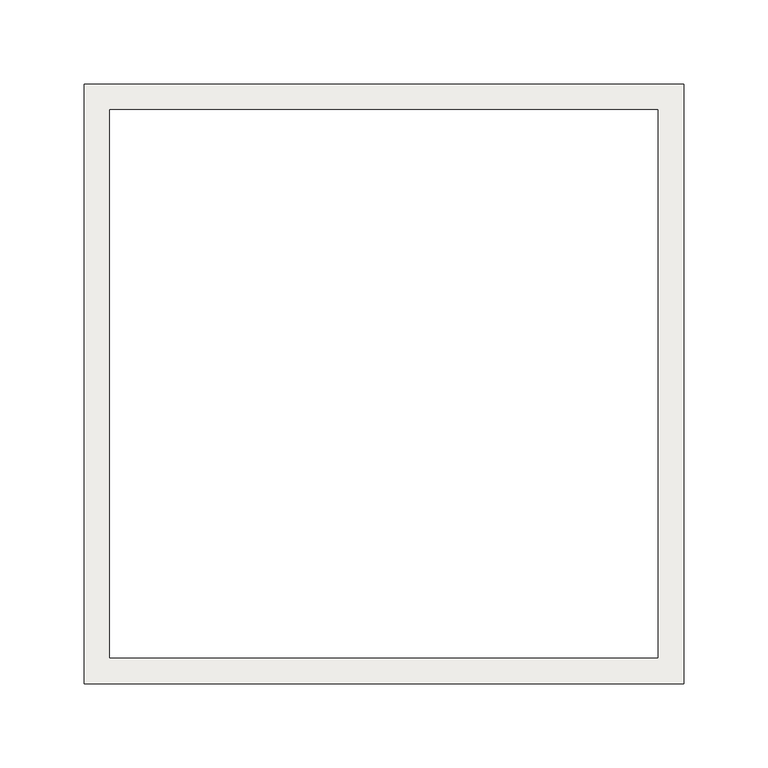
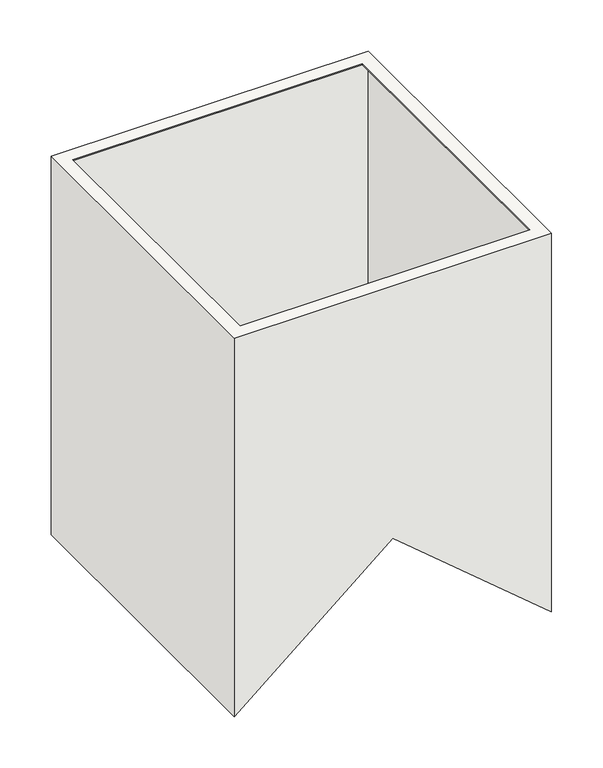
"""IFC4 building model written with IfcOpenShell, lengths in millimetres: covering geometry, DERS_420_AM_AEB_Mini Delta_mountingbox_M&G : mountingbox Mini-Delta."""

import ifcopenshell
import ifcopenshell.guid

model = None  # the IFC model being written
_history = None  # IfcOwnerHistory: only IFC2X3 demands one
_inside = {}  # id of a spatial element -> (the spatial element, [elements in it])
_under = {}  # id of a project, library or spatial element -> (it, [spatial elements below it])
_declared = {}  # id of a project -> (the project, [libraries it declares])
_typed = {}  # id of a type object -> (the type object, [elements of that type])
_made_of = {}  # id of a material, layer set ... -> (it, [elements and type objects made of it])


def new_model(schema):
    """Start an empty IFC model of exactly this schema.

    Asked for "IFC4X3", IfcOpenShell would pick the latest addendum, in which some entities
    have other attributes; the version numbers below select the first issue.
    IFC2X3 requires an IfcOwnerHistory on every rooted entity: one is made here for all.
    """
    global model, _history
    if schema == "IFC4X3":
        model = ifcopenshell.file(schema_version=(4, 3, 0, 0))
    else:
        model = ifcopenshell.file(schema=schema)
    _inside.clear()
    _under.clear()
    _declared.clear()
    _typed.clear()
    _made_of.clear()
    _history = None
    if model.schema == "IFC2X3":
        org = make("IfcOrganization", Name="unknown")
        user = make(
            "IfcPersonAndOrganization",
            ThePerson=make("IfcPerson", FamilyName="unknown"),
            TheOrganization=org,
        )
        app = make(
            "IfcApplication",
            ApplicationDeveloper=org,
            Version="unknown",
            ApplicationFullName="unknown",
            ApplicationIdentifier="unknown",
        )
        _history = make(
            "IfcOwnerHistory",
            OwningUser=user,
            OwningApplication=app,
            ChangeAction="ADDED",
            CreationDate=0,
        )
    return model


def make(cls, **values):
    """One entity of the class cls with the attributes given. An attribute that is None is left unset."""
    return model.create_entity(
        cls, **{name: value for name, value in values.items() if value is not None}
    )


def rooted(cls, **values):
    """An entity with a GlobalId (a new one), such as an element, a storey or a relation."""
    return make(cls, GlobalId=ifcopenshell.guid.new(), OwnerHistory=_history, **values)


def si_unit(unit_type, name, prefix=None):
    """IfcSIUnit, for example si_unit("LENGTHUNIT", "METRE", prefix="MILLI")."""
    return make("IfcSIUnit", UnitType=unit_type, Prefix=prefix, Name=name)


def assignment(units):
    """IfcUnitAssignment: the units of a project."""
    return None if units is None else make("IfcUnitAssignment", Units=units)


def point(xyz):
    """IfcCartesianPoint."""
    return None if xyz is None else make("IfcCartesianPoint", Coordinates=xyz)


def direction(xyz):
    """IfcDirection."""
    return None if xyz is None else make("IfcDirection", DirectionRatios=xyz)


def frame(location, z_axis=None, x_axis=None):
    """IfcAxis2Placement3D, a coordinate frame: its origin and axes. An axis left out is left unset."""
    return make(
        "IfcAxis2Placement3D",
        Location=point(location),
        Axis=direction(z_axis),
        RefDirection=direction(x_axis),
    )


def origin():
    """The frame at (0, 0, 0) with its axes left unset."""
    return frame((0.0, 0.0, 0.0))


def place(relative_to, where):
    """IfcLocalPlacement: puts the frame where relative to a parent placement (None: the world)."""
    return make(
        "IfcLocalPlacement", PlacementRelTo=relative_to, RelativePlacement=where
    )


def context(
    kind, dimensions, precision=None, world=None, true_north=None, identifier=None
):
    """IfcGeometricRepresentationContext, for example the 3D "Model" context."""
    return make(
        "IfcGeometricRepresentationContext",
        ContextIdentifier=identifier,
        ContextType=kind,
        CoordinateSpaceDimension=dimensions,
        Precision=precision,
        WorldCoordinateSystem=world,
        TrueNorth=true_north,
    )


def project(units=None, contexts=None):
    """IfcProject with its units and contexts."""
    return rooted(
        "IfcProject",
        Name="project",
        RepresentationContexts=contexts,
        UnitsInContext=assignment(units),
    )


def spatial(cls, under=None, at=None, **own):
    """A site, building, storey or space (cls), placed at a placement, below another one or the project."""
    s = rooted(cls, ObjectPlacement=at, **own)
    if under is not None:
        _under.setdefault(under.id(), (under, []))[1].append(s)
    return s


def faces_of(points, faces, orient=None, outer=None):
    """IfcFace entities. A face is a list of loops; a loop is a list of indices into points, from 0.

    orient and outer hold one flag for each loop. By default every Orientation is true, the
    first loop of a face is its IfcFaceOuterBound and the others are IfcFaceBound.
    """
    made = []
    for i, loops in enumerate(faces):
        bounds = []
        for j, loop in enumerate(loops):
            is_outer = j == 0 if outer is None else outer[i][j]
            bounds.append(
                make(
                    "IfcFaceOuterBound" if is_outer else "IfcFaceBound",
                    Bound=make("IfcPolyLoop", Polygon=[points[k] for k in loop]),
                    Orientation=True if orient is None else orient[i][j],
                )
            )
        made.append(make("IfcFace", Bounds=bounds))
    return made


def faceted_brep(points, faces, orient=None, outer=None, voids=None):
    """IfcFacetedBrep: a solid bounded by flat faces; with voids (closed shells), ...WithVoids."""
    shared = [point(p) for p in points]
    hull = make("IfcClosedShell", CfsFaces=faces_of(shared, faces, orient, outer))
    if voids is None:
        return make("IfcFacetedBrep", Outer=hull)
    return make(
        "IfcFacetedBrepWithVoids",
        Outer=hull,
        Voids=[
            make(cls, CfsFaces=faces_of(shared, fs, o, b)) for cls, fs, o, b in voids
        ],
    )


def shape(context_of_items, identifier, shape_type, items):
    """IfcShapeRepresentation: the items that make up one representation, for example the "Body"."""
    return make(
        "IfcShapeRepresentation",
        ContextOfItems=context_of_items,
        RepresentationIdentifier=identifier,
        RepresentationType=shape_type,
        Items=items,
    )


def source(mapping_origin, context_of_items, identifier, shape_type, items):
    """IfcRepresentationMap: a shape defined once, which mapped items show again and again."""
    return make(
        "IfcRepresentationMap",
        MappingOrigin=mapping_origin,
        MappedRepresentation=shape(context_of_items, identifier, shape_type, items),
    )


def transform(
    local_origin,
    x_axis=None,
    y_axis=None,
    z_axis=None,
    scale=None,
    scale2=None,
    scale3=None,
    uniform=True,
):
    """IfcCartesianTransformationOperator3D, or its non-uniform kind. x_axis, y_axis, z_axis: its Axis1, 2, 3."""
    if uniform:
        return make(
            "IfcCartesianTransformationOperator3D",
            Axis1=direction(x_axis),
            Axis2=direction(y_axis),
            LocalOrigin=point(local_origin),
            Scale=scale,
            Axis3=direction(z_axis),
        )
    return make(
        "IfcCartesianTransformationOperator3DnonUniform",
        Axis1=direction(x_axis),
        Axis2=direction(y_axis),
        LocalOrigin=point(local_origin),
        Scale=scale,
        Axis3=direction(z_axis),
        Scale2=scale2,
        Scale3=scale3,
    )


def mapped(mapping_source, mapping_target):
    """IfcMappedItem: shows the shape of a source again, moved by a transform."""
    return make(
        "IfcMappedItem", MappingSource=mapping_source, MappingTarget=mapping_target
    )


def made_of(thing, what):
    """Note that an element or type object is made of a material, layer set ...; save() writes the relation."""
    if what is not None:
        _made_of.setdefault(what.id(), (what, []))[1].append(thing)
    return thing


def element(
    cls,
    number,
    at=None,
    inside=None,
    cuts=None,
    type_object=None,
    material=None,
    context=None,
    identifier="Body",
    shape_type=None,
    held_by="IfcProductDefinitionShape",
    body=None,
    shapes=None,
    **own,
):
    """One element of the class cls, such as IfcWall. Its Tag is "e" and its number.

    at: its placement. inside: the storey or other place that contains it. cuts: it is an
    opening in that element (IfcRelVoidsElement). A single representation is given by context,
    identifier, shape_type and body (its items); several are given by shapes. held_by: the class
    of the entity that holds the representations. save() writes the other relations.
    """
    e = rooted(cls, Tag="e%d" % number, ObjectPlacement=at, **own)
    if body is not None:
        shapes = [shape(context, identifier, shape_type, body)]
    if shapes is not None:
        e.Representation = make(held_by, Representations=shapes)
    if inside is not None:
        _inside.setdefault(inside.id(), (inside, []))[1].append(e)
    if cuts is not None:
        rooted(
            "IfcRelVoidsElement", RelatingBuildingElement=cuts, RelatedOpeningElement=e
        )
    if type_object is not None:
        _typed.setdefault(type_object.id(), (type_object, []))[1].append(e)
    return made_of(e, material)


def aggregate(whole, parts):
    """IfcRelAggregates: a whole, such as a stair, and the parts it consists of."""
    return rooted("IfcRelAggregates", RelatingObject=whole, RelatedObjects=parts)


def save(model, path):
    """Write the relations noted so far, then the file.

    IfcRelAggregates (storeys below a building ...), IfcRelContainedInSpatialStructure (elements
    in a storey), IfcRelDefinesByType, IfcRelAssociatesMaterial and IfcRelDeclares: one each for
    every whole, place, type object, material and project.
    """
    for whole, parts in _under.values():
        aggregate(whole, parts)
    for where, things in _inside.values():
        rooted(
            "IfcRelContainedInSpatialStructure",
            RelatedElements=things,
            RelatingStructure=where,
        )
    for kind, things in _typed.values():
        rooted("IfcRelDefinesByType", RelatedObjects=things, RelatingType=kind)
    for what, things in _made_of.values():
        rooted("IfcRelAssociatesMaterial", RelatedObjects=things, RelatingMaterial=what)
    for by, libraries in _declared.values():
        rooted("IfcRelDeclares", RelatingContext=by, RelatedDefinitions=libraries)
    model.write(path)


def covering_a8a82159(model_context):
    return source(origin(), model_context, "Body", "Brep", [
        faceted_brep([(355.5, -177.75, 0.0), (355.5, 177.75, 0.0), (0.0, 177.75, 0.0), (0.0, -177.75, 0.0), (340.25, -162.5, 0.0), (15.25, -162.5, 0.0), (15.25, 162.5, 0.0), (340.25, 162.5, 0.0), (355.5, -177.75, -1.3), (355.5, -177.75, -449.1499594), (355.5, 177.75, -449.1499594), (355.5, 177.75, -1.3), (177.75, 177.75, -300.0), (0.0, 177.75, -449.1499594), (0.0, 177.75, -1.3), (0.0, -177.75, -449.1499594), (0.0, -177.75, -1.3), (177.75, -177.75, -300.0), (1.3, -176.45, -448.0591299), (1.3, 176.45, -448.0591299), (1.3, 176.45, -1.3), (1.3, -176.45, -1.3), (177.75, 176.45, -300.0), (354.2, 176.45, -448.0591299), (354.2, 176.45, -1.3), (354.2, -176.45, -448.0591299), (354.2, -176.45, -1.3), (177.75, -176.45, -300.0), (15.25, -162.5, -1.3), (340.25, -162.5, -1.3), (340.25, 162.5, -1.3), (15.25, 162.5, -1.3)], [[[0, 1, 2, 3], [4, 5, 6, 7]], [[1, 0, 8, 9, 10, 11]], [[2, 1, 11, 10, 12, 13, 14]], [[3, 2, 14, 13, 15, 16]], [[0, 3, 16, 15, 17, 9, 8]], [[18, 19, 20, 21]], [[19, 22, 23, 24, 20]], [[23, 25, 26, 24]], [[27, 18, 21, 26, 25]], [[12, 22, 19, 18, 27, 17, 15, 13]], [[28, 5, 4, 29]], [[29, 4, 7, 30]], [[30, 7, 6, 31]], [[5, 28, 31, 6]], [[21, 20, 24, 26], [28, 29, 30, 31]], [[22, 12, 10, 9, 17, 27, 25, 23]]]),
    ])


if __name__ == "__main__":
    model = new_model("IFC4")
    model_context = context("Model", 3, world=origin())
    ifc_project = project(units=[si_unit("LENGTHUNIT", "METRE", prefix="MILLI")], contexts=[model_context])
    site = spatial("IfcSite", under=ifc_project)
    building = spatial("IfcBuilding", under=site)
    placement = place(None, origin())
    covering_shape = covering_a8a82159(model_context)
    element("IfcCovering", 1, ObjectType="DERS_420_AM_AEB_Mini Delta_mountingbox_M&G : mountingbox Mini-Delta", at=placement, inside=building, context=model_context, shape_type="MappedRepresentation", body=[
        mapped(covering_shape, transform((0.0, 0.0, 0.0), x_axis=(1.0, 0.0, 0.0), y_axis=(0.0, 1.0, 0.0), z_axis=(0.0, 0.0, 1.0))),
    ])
    save(model, "model.ifc")
